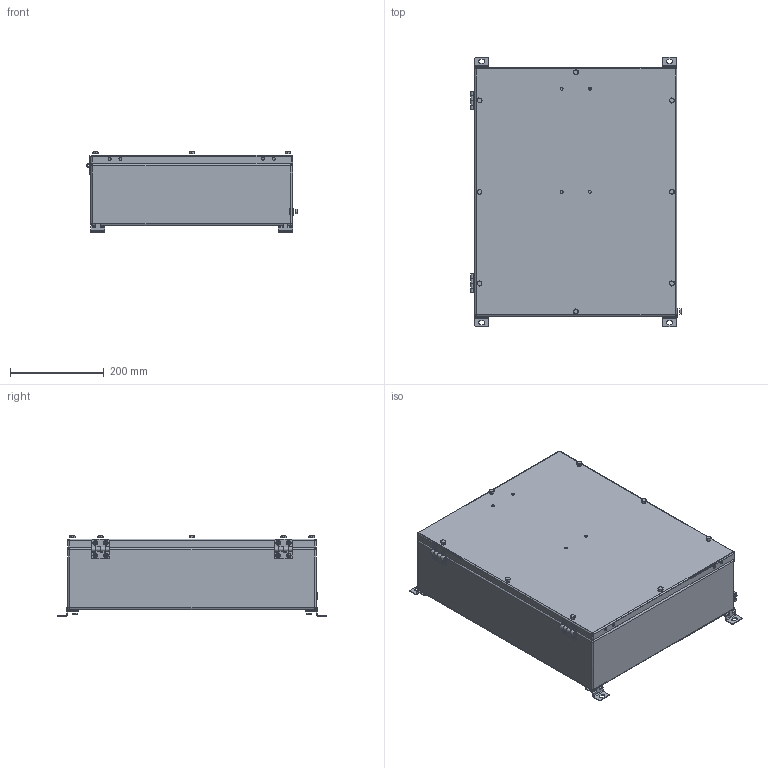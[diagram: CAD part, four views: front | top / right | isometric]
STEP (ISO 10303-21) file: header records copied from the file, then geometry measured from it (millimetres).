
FILE_DESCRIPTION((''),'2;1');
FILE_NAME('\\192.168.5.25\cortem_klient\INVENTOR БАЗА МОДЕЛЕЙ\Актуальная база моделей для отдела продаж\КСРВ-М\КСРВ-М534315_М3.stp','2019-04-09T14:45:50',('A.S.Kozlov'),(''),'Autodesk Inventor 2012','Autodesk Inventor 2012','');
FILE_SCHEMA(('CONFIG_CONTROL_DESIGN'));
Length unit declared in the file: millimetre
Products named in the file (1): КСРВ-(параметрическая модель)_Внешний контур_1
Bounding box: 449.19 x 574 x 171.7 mm (x, y, z)
Surface area: 1097384.8 mm2 (no closed solid volume)
Topology: 0 solids, 66 shells, 249 faces, 1207 edges, 960 vertices
Faces by surface type: plane 167, cylinder 68, sphere 12, cone 2
Full cylindrical faces by diameter (mm): 5.9 x4, 6.1 x4, 9 x2, 10 x6
Entity records: 12401 total; most frequent: CARTESIAN_POINT 2588, DIRECTION 1970, ORIENTED_EDGE 1470, EDGE_CURVE 1174, VERTEX_POINT 948, VECTOR 662, LINE 662, AXIS2_PLACEMENT_3D 654
